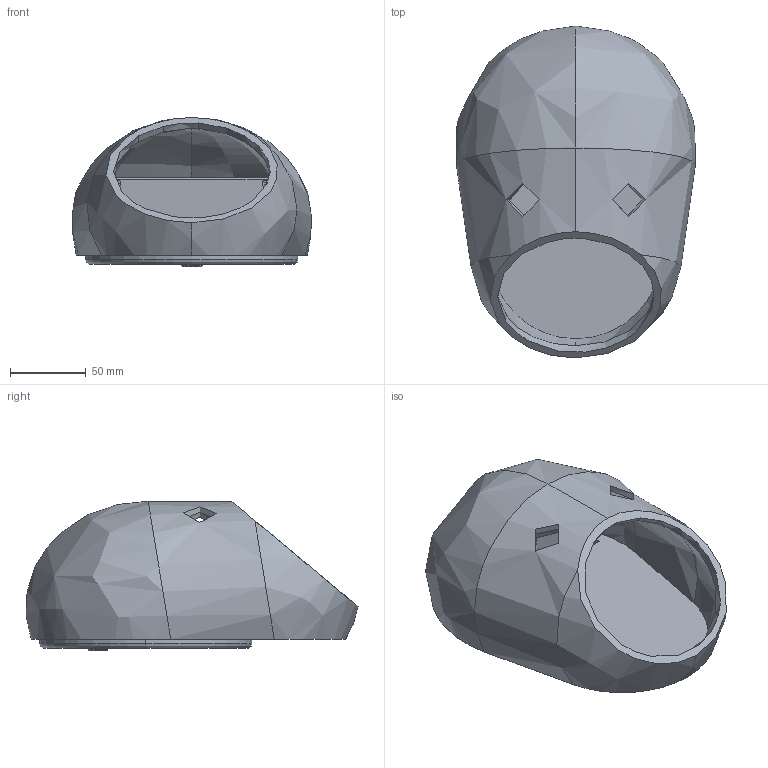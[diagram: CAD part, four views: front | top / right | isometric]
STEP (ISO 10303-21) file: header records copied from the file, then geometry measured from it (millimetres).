
FILE_DESCRIPTION (( 'STEP AP214' ), '1' );
FILE_NAME ('A000922_Creations_Default_TED_19-10-2018.step', '2018-10-19T07:16:37', ( '' ), ( '' ), 'SwSTEP 2.0', 'SolidWorks 2017', '' );
FILE_SCHEMA (( 'AUTOMOTIVE_DESIGN' ));
Length unit declared in the file: millimetre
Products named in the file (18): P002326; P002709_120-14-C0450-TL; P002654; A000915_A000689_UL; P002099; DIN 985 - M3 - N; P002522; P002659; DIN 6797-A3.2_DIN 6797-A3.2; EN ISO 10642 - M3 x 16 - 16N_EN ISO 10642 - M3 x 16 - 16N; P002653; P001935; P002325; P000480; P000780; P002521; ISO 7380 - M3 x 10 - 10N_ISO 7380 - M3 x 10 - 10N; A000922_Creations_Default_TED_19-10-2018
Assembly tree (28 placements, depth 3):
  A000922_Creations_Default_TED_19-10-2018
    P002099
    A000915_A000689_UL
      P002326
      P002521
      P002522
      P002653
      P002654
      P000480
      P001935  x2
      P002325
      P002709_120-14-C0450-TL
      DIN 985 - M3 - N  x7
      P002659
      P000780
      EN ISO 10642 - M3 x 16 - 16N_EN ISO 10642 - M3 x 16 - 16N  x4
      ISO 7380 - M3 x 10 - 10N_ISO 7380 - M3 x 10 - 10N  x2
      DIN 6797-A3.2_DIN 6797-A3.2
Bounding box: 157.72 x 219.14 x 98.5 mm (x, y, z)
Volume: 628621.7 mm3; surface area: 244514.2 mm2
Topology: 28 solids, 28 shells, 1273 faces, 3167 edges, 2010 vertices
Faces by surface type: plane 596, cylinder 325, cone 160, bspline 148, torus 36, sphere 8
Entity records: 46395 total; most frequent: CARTESIAN_POINT 25104, ORIENTED_EDGE 4286, DIRECTION 3658, EDGE_CURVE 2143, VERTEX_POINT 1396, LINE 1274, VECTOR 1274, AXIS2_PLACEMENT_3D 1192
